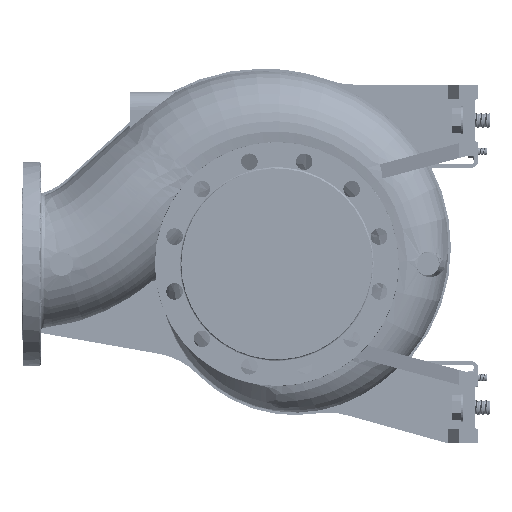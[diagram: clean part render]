
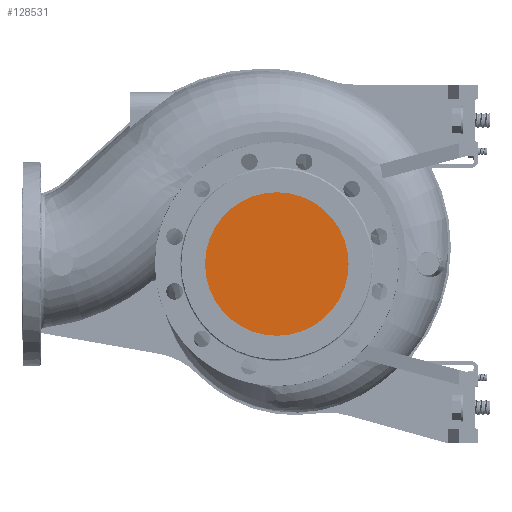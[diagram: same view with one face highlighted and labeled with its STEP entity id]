
A CAD part, left-side view. The second image highlights one B-rep face of the part: STEP entity #128531.
In plain terms, the highlighted planar face has unit normal (-1, 0, 0).
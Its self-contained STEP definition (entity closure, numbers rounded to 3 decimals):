
#22560 = DIRECTION ( 'NONE',  ( 0., 0., -1. ) ) ;
#25513 = CIRCLE ( 'NONE', #192469, 100. ) ;
#45282 = DIRECTION ( 'NONE',  ( 0., -1., 0. ) ) ;
#46716 = CARTESIAN_POINT ( 'NONE',  ( -155., 0., 100. ) ) ;
#62641 = DIRECTION ( 'NONE',  ( -1., 0., 0. ) ) ;
#68670 = DIRECTION ( 'NONE',  ( 0., 0., -1. ) ) ;
#82016 = DIRECTION ( 'NONE',  ( 1., 0., 0. ) ) ;
#91094 = ORIENTED_EDGE ( 'NONE', *, *, #183599, .F. ) ;
#92399 = FACE_OUTER_BOUND ( 'NONE', #171626, .T. ) ;
#97062 = VERTEX_POINT ( 'NONE', #146039 ) ;
#100443 = DIRECTION ( 'NONE',  ( 1., 0., 0. ) ) ;
#104476 = CARTESIAN_POINT ( 'NONE',  ( -155., 0., 0. ) ) ;
#108781 = CARTESIAN_POINT ( 'NONE',  ( -155., 101.2, -101.2 ) ) ;
#111388 = ORIENTED_EDGE ( 'NONE', *, *, #151485, .F. ) ;
#128531 = ADVANCED_FACE ( 'NONE', ( #92399 ), #139549, .T. ) ;
#131283 = AXIS2_PLACEMENT_3D ( 'NONE', #146586, #82016, #68670 ) ;
#139549 = PLANE ( 'NONE',  #175730 ) ;
#146039 = CARTESIAN_POINT ( 'NONE',  ( -155., 0., -100. ) ) ;
#146586 = CARTESIAN_POINT ( 'NONE',  ( -155., 0., 0. ) ) ;
#151485 = EDGE_CURVE ( 'NONE', #179247, #97062, #190290, .T. ) ;
#171626 = EDGE_LOOP ( 'NONE', ( #91094, #111388 ) ) ;
#175730 = AXIS2_PLACEMENT_3D ( 'NONE', #108781, #62641, #45282 ) ;
#179247 = VERTEX_POINT ( 'NONE', #46716 ) ;
#183599 = EDGE_CURVE ( 'NONE', #97062, #179247, #25513, .T. ) ;
#190290 = CIRCLE ( 'NONE', #131283, 100. ) ;
#192469 = AXIS2_PLACEMENT_3D ( 'NONE', #104476, #100443, #22560 ) ;
